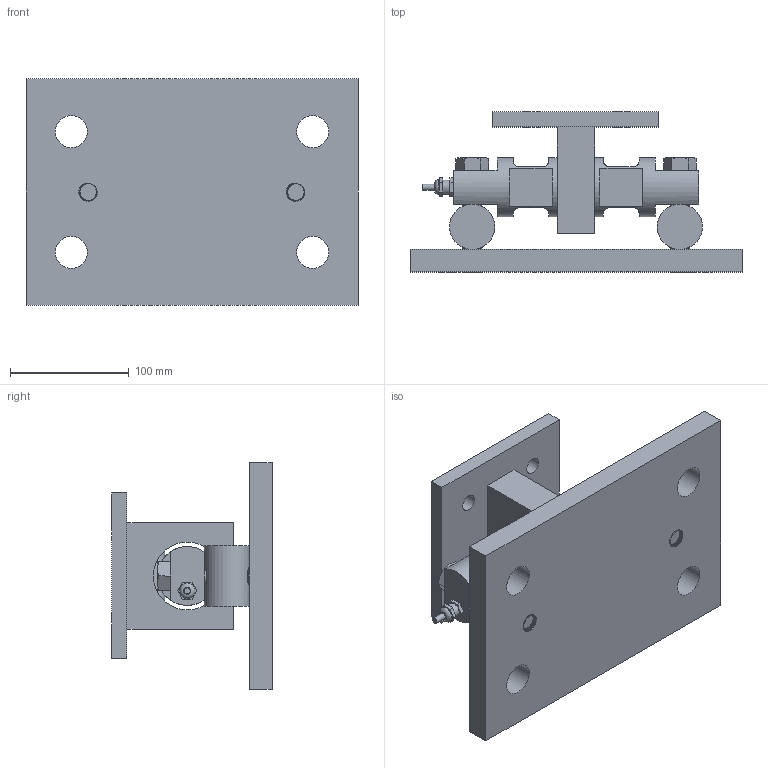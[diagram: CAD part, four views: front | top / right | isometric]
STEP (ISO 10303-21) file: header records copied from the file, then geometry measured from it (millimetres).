
FILE_DESCRIPTION(/* description */ (''),/* implementation_level */ '2;1');
FILE_NAME(/* name */ 'C:/Users/fardi/Dropbox/Work/Anyload/Load Cell Models/Product Catalog 3D/Weight Modules/102/102DSM3/102DSM3-(5-20)klb v2.step',/* time_stamp */ '2020-04-14T14:46:40-07:00',/* author */ (''),/* organization */ (''),/* preprocessor_version */ 'ST-DEVELOPER v18.1',/* originating_system */ 'Autodesk Translation Framework v9.2.0.1227',/* authorisation */ '');
FILE_SCHEMA (('AUTOMOTIVE_DESIGN { 1 0 10303 214 3 1 1 }'));
Length unit declared in the file: millimetre
Products named in the file (7): 102DSM3-(5-20)klb; Base; Support; 102DS-(5-20)klb; Connector; 91257A830; Top
Assembly tree (7 placements, depth 3):
  102DSM3-(5-20)klb
    Base
    Support
    102DS-(5-20)klb
      Connector
    91257A830  x2
    Top
Bounding box: 279.4 x 134.87 x 190.5 mm (x, y, z)
Volume: 1816751.1 mm3; surface area: 272086.3 mm2
Topology: 8 solids, 8 shells, 390 faces, 1019 edges, 672 vertices
Faces by surface type: cylinder 233, plane 128, cone 19, bspline 9, torus 1
Full cylindrical faces by diameter (mm): 5.1 x1, 10 x1, 12 x2, 13 x1, 14.042 x52, 14.2 x4, 14.516 x30, 15.875 x80, 16.764 x2, 17 x2, 26.9 x4, 38.1 x2, 49.53 x2, 57.2 x1
Entity records: 19975 total; most frequent: CARTESIAN_POINT 13300, ORIENTED_EDGE 1464, DIRECTION 1162, EDGE_CURVE 732, VERTEX_POINT 483, AXIS2_PLACEMENT_3D 413, LINE 336, VECTOR 336
